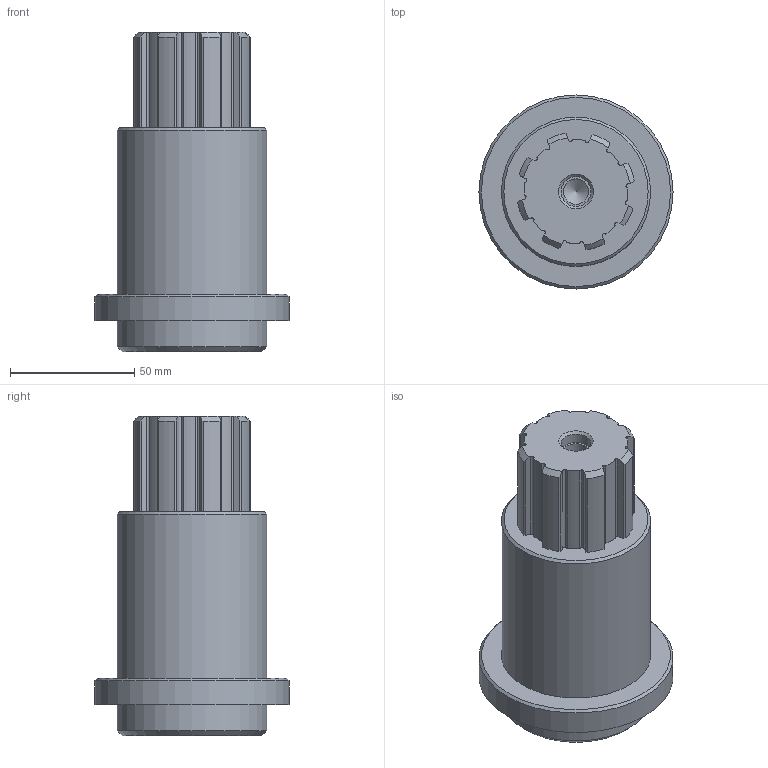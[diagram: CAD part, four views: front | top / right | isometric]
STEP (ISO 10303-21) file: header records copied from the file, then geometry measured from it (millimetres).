
FILE_DESCRIPTION(('STEP AP214'),'1');
FILE_NAME('.stp','2025-09-05T12:03:07',(' '),(' '),'Spatial InterOp 3D',' ',' ');
FILE_SCHEMA(('AUTOMOTIVE_DESIGN { 1 0 10303 214 1 1 1 1 }'));
Length unit declared in the file: millimetre
Products named in the file (1): 1
Bounding box: 78 x 78 x 128.4 mm (x, y, z)
Volume: 330902 mm3; surface area: 34749.6 mm2
Topology: 1 solids, 1 shells, 107 faces, 299 edges, 198 vertices
Faces by surface type: cylinder 54, plane 38, cone 15
Full cylindrical faces by diameter (mm): 4 x1, 10.2 x1, 12 x1, 60 x2, 78 x1
Entity records: 3443 total; most frequent: CARTESIAN_POINT 728, DIRECTION 570, ORIENTED_EDGE 562, EDGE_CURVE 281, AXIS2_PLACEMENT_3D 229, VERTEX_POINT 195, EDGE_LOOP 124, CIRCLE 121
